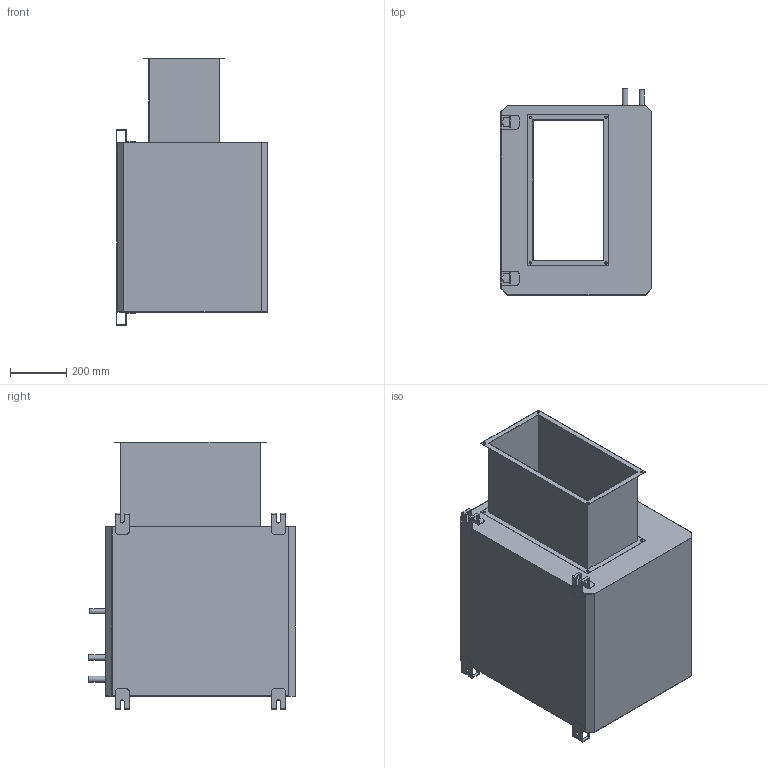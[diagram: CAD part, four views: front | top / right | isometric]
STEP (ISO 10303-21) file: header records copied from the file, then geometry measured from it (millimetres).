
FILE_DESCRIPTION(/* description */ (''),/* implementation_level */ '2;1');
FILE_NAME(/* name */ 'Z:\Output\AIR1-KR_KW_XC_1400_L-04187-001.stp',/* time_stamp */ '2021-02-22T16:58:10+01:00',/* author */ ('engineering2'),/* organization */ (''),/* preprocessor_version */ 'ST-DEVELOPER v17.2',/* originating_system */ 'Autodesk Inventor 2019',/* authorisation */ '');
FILE_SCHEMA (('AUTOMOTIVE_DESIGN { 1 0 10303 214 3 1 1 }'));
Length unit declared in the file: millimetre
Products named in the file (1): AIR1-KR-KW-XC
Bounding box: 542 x 737 x 954 mm (x, y, z)
Volume: 2517067.9 mm3; surface area: 4848064.1 mm2
Topology: 1 solids, 1 shells, 207 faces, 614 edges, 408 vertices
Faces by surface type: plane 129, cylinder 78
Full cylindrical faces by diameter (mm): 8 x12, 15 x1, 17.5 x1, 18.46 x2, 20.96 x2
Entity records: 7061 total; most frequent: CARTESIAN_POINT 1230, ORIENTED_EDGE 1228, DIRECTION 1190, EDGE_CURVE 614, LINE 454, VECTOR 454, VERTEX_POINT 408, AXIS2_PLACEMENT_3D 368
